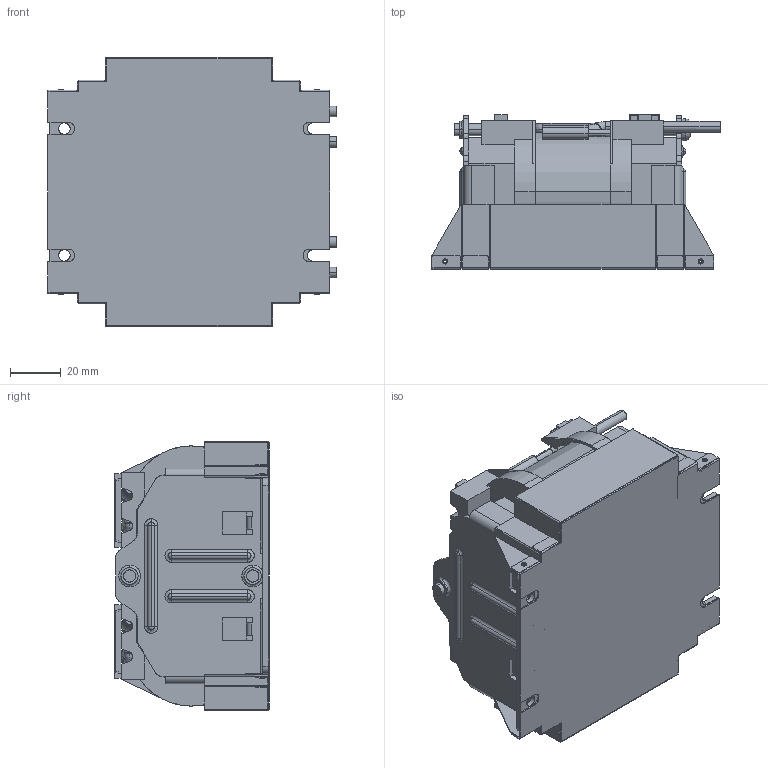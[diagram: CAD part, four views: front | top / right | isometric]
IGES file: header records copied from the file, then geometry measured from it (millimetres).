
Start section: SolidWorks IGES file using analytic representation for surfaces
Global section: file name: 34H\\10.106.230.1\R&D File\05_COMP\02_Mechanical\10_Others\PV_RT 81\网络用3D模型\半灌封模型\3KW_P_ACL\SF14221B-PM00DS20R(M-3KW_ACL-P).IGS; native system: SolidWorks 2009; preprocessor: SolidWorks 2009; author: Administrator; date: 120508.144628; units: millimetre
Bounding box: 113.5 x 60.9 x 106 mm (x, y, z)
Surface area: 156744.5 mm2 (no closed solid volume)
Topology: 0 solids, 0 shells, 1155 faces, 9301 edges, 9278 vertices
Faces by surface type: bspline 763, revolution 392
